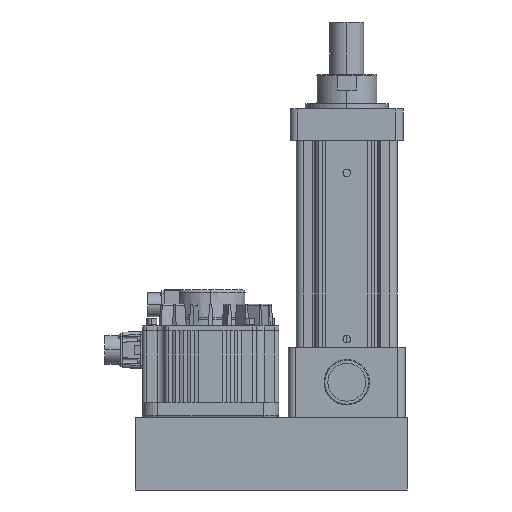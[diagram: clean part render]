
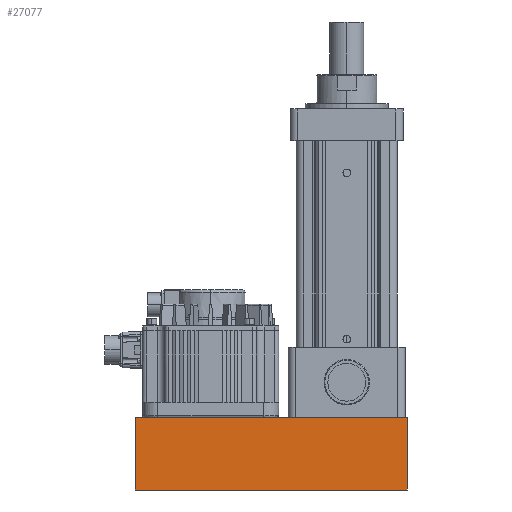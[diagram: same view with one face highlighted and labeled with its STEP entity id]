
A CAD part, left-side view. The second image highlights one B-rep face of the part: STEP entity #27077.
In plain terms, the highlighted planar face has unit normal (-1, 0, 0).
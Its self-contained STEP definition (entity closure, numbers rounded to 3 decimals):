
#3637 = VECTOR ( 'NONE', #16917, 1000. ) ;
#4230 = VECTOR ( 'NONE', #13297, 1000. ) ;
#4322 = CARTESIAN_POINT ( 'NONE',  ( -90., -80., -189. ) ) ;
#7757 = AXIS2_PLACEMENT_3D ( 'NONE', #15387, #8674, #28511 ) ;
#8674 = DIRECTION ( 'NONE',  ( 1., 0., 0. ) ) ;
#8943 = VECTOR ( 'NONE', #15815, 1000. ) ;
#9204 = DIRECTION ( 'NONE',  ( 0., 0., 1. ) ) ;
#9337 = VERTEX_POINT ( 'NONE', #21935 ) ;
#9770 = CARTESIAN_POINT ( 'NONE',  ( -90., 280., -189. ) ) ;
#11181 = CARTESIAN_POINT ( 'NONE',  ( -90., -80., -93. ) ) ;
#11382 = LINE ( 'NONE', #11740, #8943 ) ;
#11740 = CARTESIAN_POINT ( 'NONE',  ( -90., -80., -189. ) ) ;
#12629 = VERTEX_POINT ( 'NONE', #20809 ) ;
#12925 = EDGE_CURVE ( 'NONE', #9337, #20281, #26691, .T. ) ;
#12991 = EDGE_CURVE ( 'NONE', #9337, #20520, #11382, .T. ) ;
#13297 = DIRECTION ( 'NONE',  ( 0., 1., 0. ) ) ;
#15387 = CARTESIAN_POINT ( 'NONE',  ( -90., -80., -189. ) ) ;
#15815 = DIRECTION ( 'NONE',  ( 0., 1., 0. ) ) ;
#16917 = DIRECTION ( 'NONE',  ( 0., 0., 1. ) ) ;
#18131 = ORIENTED_EDGE ( 'NONE', *, *, #18193, .F. ) ;
#18193 = EDGE_CURVE ( 'NONE', #20520, #12629, #27709, .T. ) ;
#18942 = ORIENTED_EDGE ( 'NONE', *, *, #12925, .T. ) ;
#19090 = ORIENTED_EDGE ( 'NONE', *, *, #20256, .T. ) ;
#20256 = EDGE_CURVE ( 'NONE', #20281, #12629, #28270, .T. ) ;
#20281 = VERTEX_POINT ( 'NONE', #26637 ) ;
#20405 = VECTOR ( 'NONE', #9204, 1000. ) ;
#20520 = VERTEX_POINT ( 'NONE', #27966 ) ;
#20809 = CARTESIAN_POINT ( 'NONE',  ( -90., 280., -93. ) ) ;
#21801 = PLANE ( 'NONE',  #7757 ) ;
#21935 = CARTESIAN_POINT ( 'NONE',  ( -90., -80., -189. ) ) ;
#23091 = ORIENTED_EDGE ( 'NONE', *, *, #12991, .F. ) ;
#26637 = CARTESIAN_POINT ( 'NONE',  ( -90., -80., -93. ) ) ;
#26691 = LINE ( 'NONE', #4322, #20405 ) ;
#27077 = ADVANCED_FACE ( 'NONE', ( #28500 ), #21801, .F. ) ;
#27709 = LINE ( 'NONE', #9770, #3637 ) ;
#27966 = CARTESIAN_POINT ( 'NONE',  ( -90., 280., -189. ) ) ;
#28270 = LINE ( 'NONE', #11181, #4230 ) ;
#28500 = FACE_OUTER_BOUND ( 'NONE', #28630, .T. ) ;
#28511 = DIRECTION ( 'NONE',  ( 0., 0., -1. ) ) ;
#28630 = EDGE_LOOP ( 'NONE', ( #19090, #18131, #23091, #18942 ) ) ;
